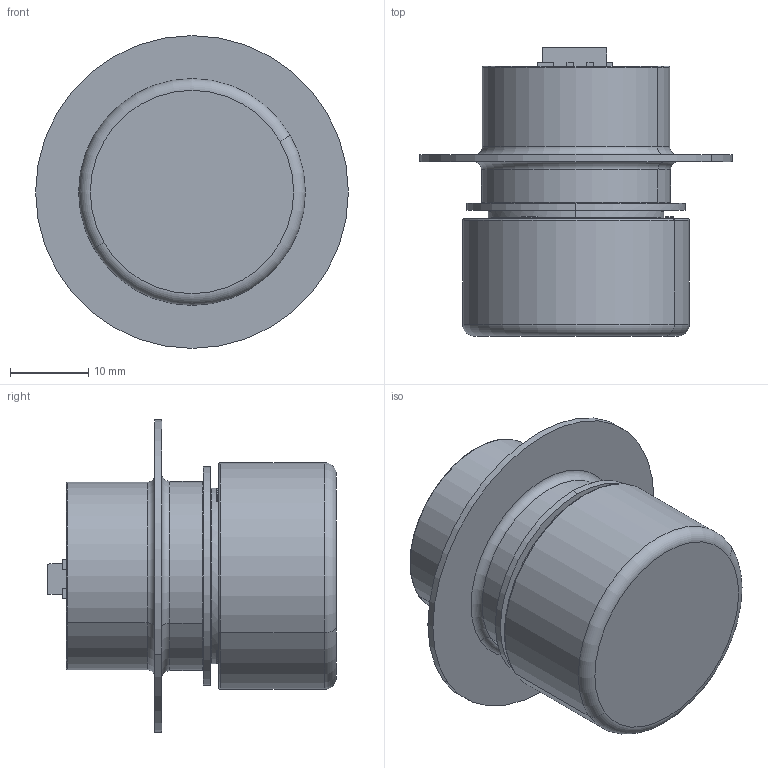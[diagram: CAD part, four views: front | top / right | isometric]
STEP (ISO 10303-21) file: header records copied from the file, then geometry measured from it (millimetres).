
FILE_DESCRIPTION(('Creo Elements/Direct Modeling STEP Export'),'2;1');
FILE_NAME('CORE04-Bxxxxx.stp','2026-09-09T14:16:02',(''),(''),'Creo Elements/Direct Modeling STEP processor for AP214 (Solid Model)','Creo Elements/Direct Modeling 20.6D 10-Jan-2026 (C) Parametric Technology GmbH','');
FILE_SCHEMA(('AUTOMOTIVE_DESIGN { 1 0 10303 214 1 1 1 1 }'));
Length unit declared in the file: millimetre
Products named in the file (11): Cover_Design_2_50Grad; Cover_Design_4_70Grad; Cover_Design_3_60Grad; Cover_Design_1_40Grad; O-Ring; Mounting_Adapter; Design_recommendations; PCBA_V0; PCBA_V1; CORE04_B; CORE04-Bxxxxx
Assembly tree (10 placements, depth 3):
  CORE04-Bxxxxx
    CORE04_B
    PCBA_V1
    PCBA_V0
    Design_recommendations
      Mounting_Adapter
      O-Ring
      Cover_Design_1_40Grad
      Cover_Design_3_60Grad
      Cover_Design_4_70Grad
      Cover_Design_2_50Grad
Bounding box: 40 x 36.89 x 40 mm (x, y, z)
Volume: 24880.7 mm3; surface area: 26519.9 mm2
Topology: 9 solids, 17 shells, 2871 faces, 7970 edges, 5031 vertices
Faces by surface type: plane 1210, cylinder 851, bspline 356, torus 354, cone 74, sphere 20, revolution 6
Entity records: 154065 total; most frequent: CARTESIAN_POINT 70866, ORIENTED_EDGE 15844, DIRECTION 12416, EDGE_CURVE 7922, VERTEX_POINT 5031, VECTOR 4162, LINE 4162, AXIS2_PLACEMENT_3D 4125
